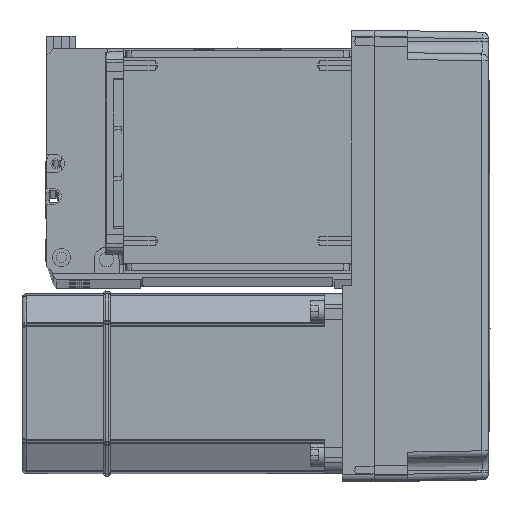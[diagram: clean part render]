
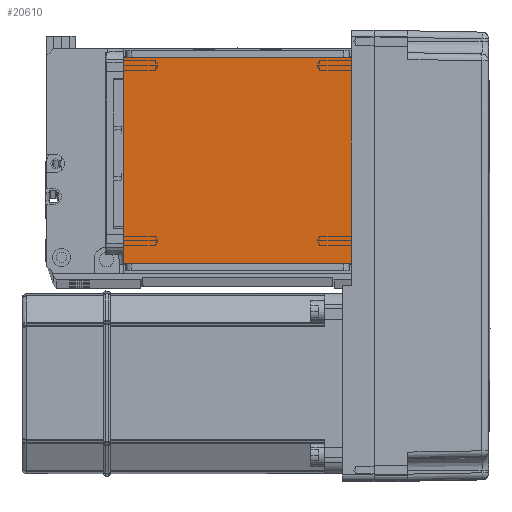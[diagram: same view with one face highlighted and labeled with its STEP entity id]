
A CAD part, top view. The second image highlights one B-rep face of the part: STEP entity #20610.
In plain terms, the highlighted planar face has unit normal (0, 0, 1).
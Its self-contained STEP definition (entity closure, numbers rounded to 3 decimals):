
#1370 = AXIS2_PLACEMENT_3D ( 'NONE', #29523, #48736, #4737 ) ;
#4737 = DIRECTION ( 'NONE',  ( 1., 0., 0. ) ) ;
#5974 = LINE ( 'NONE', #35393, #26503 ) ;
#7130 = VECTOR ( 'NONE', #12057, 1000. ) ;
#9095 = CARTESIAN_POINT ( 'NONE',  ( 50.5, 20., 115. ) ) ;
#11203 = EDGE_CURVE ( 'NONE', #42183, #61930, #60488, .T. ) ;
#12057 = DIRECTION ( 'NONE',  ( 0., 1., 0. ) ) ;
#12435 = VECTOR ( 'NONE', #46733, 1000. ) ;
#15320 = CARTESIAN_POINT ( 'NONE',  ( -50.5, 20., 115. ) ) ;
#17439 = ORIENTED_EDGE ( 'NONE', *, *, #34355, .F. ) ;
#17744 = CARTESIAN_POINT ( 'NONE',  ( -70.004, 20., 115. ) ) ;
#20599 = ORIENTED_EDGE ( 'NONE', *, *, #34336, .T. ) ;
#20610 = ADVANCED_FACE ( 'NONE', ( #51425 ), #42628, .T. ) ;
#24220 = VERTEX_POINT ( 'NONE', #24262 ) ;
#24262 = CARTESIAN_POINT ( 'NONE',  ( 50.5, 111.5, 115. ) ) ;
#24622 = LINE ( 'NONE', #17744, #12435 ) ;
#25434 = ORIENTED_EDGE ( 'NONE', *, *, #44114, .F. ) ;
#26503 = VECTOR ( 'NONE', #49516, 1000. ) ;
#27664 = LINE ( 'NONE', #31546, #7130 ) ;
#29523 = CARTESIAN_POINT ( 'NONE',  ( 0., 0., 115. ) ) ;
#31546 = CARTESIAN_POINT ( 'NONE',  ( 50.5, 122., 115. ) ) ;
#34311 = CARTESIAN_POINT ( 'NONE',  ( -50.5, 111.5, 115. ) ) ;
#34336 = EDGE_CURVE ( 'NONE', #60369, #24220, #27664, .T. ) ;
#34355 = EDGE_CURVE ( 'NONE', #60369, #61930, #24622, .T. ) ;
#34836 = DIRECTION ( 'NONE',  ( 0., -1., 0. ) ) ;
#35393 = CARTESIAN_POINT ( 'NONE',  ( -70.004, 111.5, 115. ) ) ;
#42183 = VERTEX_POINT ( 'NONE', #34311 ) ;
#42628 = PLANE ( 'NONE',  #1370 ) ;
#44114 = EDGE_CURVE ( 'NONE', #42183, #24220, #5974, .T. ) ;
#45367 = VECTOR ( 'NONE', #34836, 1000. ) ;
#46264 = ORIENTED_EDGE ( 'NONE', *, *, #11203, .T. ) ;
#46733 = DIRECTION ( 'NONE',  ( -1., 0., 0. ) ) ;
#48544 = CARTESIAN_POINT ( 'NONE',  ( -50.5, 122., 115. ) ) ;
#48736 = DIRECTION ( 'NONE',  ( 0., 0., 1. ) ) ;
#49516 = DIRECTION ( 'NONE',  ( 1., 0., 0. ) ) ;
#51425 = FACE_OUTER_BOUND ( 'NONE', #61858, .T. ) ;
#60369 = VERTEX_POINT ( 'NONE', #9095 ) ;
#60488 = LINE ( 'NONE', #48544, #45367 ) ;
#61858 = EDGE_LOOP ( 'NONE', ( #25434, #46264, #17439, #20599 ) ) ;
#61930 = VERTEX_POINT ( 'NONE', #15320 ) ;
